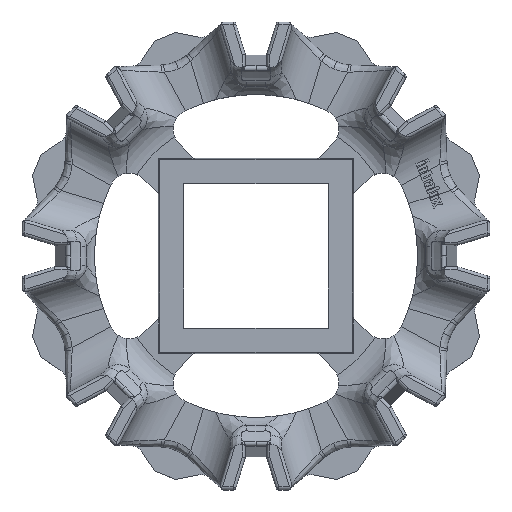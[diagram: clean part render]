
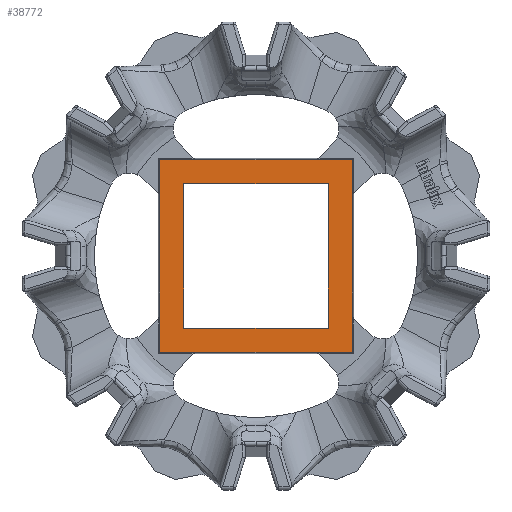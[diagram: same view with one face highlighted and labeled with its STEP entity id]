
A CAD part, top view. The second image highlights one B-rep face of the part: STEP entity #38772.
In plain terms, the highlighted planar face has unit normal (0, 0, 1).
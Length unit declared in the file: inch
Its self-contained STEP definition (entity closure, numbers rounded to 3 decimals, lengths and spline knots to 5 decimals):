
#13116=DIRECTION('',(0.,-1.,0.));
#13117=VECTOR('',#13116,1.99917);
#13118=CARTESIAN_POINT('',(-0.99958,0.99958,0.74));
#13119=LINE('',#13118,#13117);
#13120=DIRECTION('',(-1.,0.,0.));
#13121=VECTOR('',#13120,1.99917);
#13122=CARTESIAN_POINT('',(0.99958,0.99958,0.74));
#13123=LINE('',#13122,#13121);
#13124=DIRECTION('',(0.,1.,0.));
#13125=VECTOR('',#13124,1.99917);
#13126=CARTESIAN_POINT('',(0.99958,-0.99958,0.74));
#13127=LINE('',#13126,#13125);
#13128=DIRECTION('',(1.,0.,0.));
#13129=VECTOR('',#13128,1.99917);
#13130=CARTESIAN_POINT('',(-0.99958,-0.99958,0.74));
#13131=LINE('',#13130,#13129);
#13132=DIRECTION('',(0.,-1.,0.));
#13133=VECTOR('',#13132,1.5);
#13134=CARTESIAN_POINT('',(-0.75,0.75,0.74));
#13135=LINE('',#13134,#13133);
#13136=DIRECTION('',(1.,0.,0.));
#13137=VECTOR('',#13136,1.5);
#13138=CARTESIAN_POINT('',(-0.75,-0.75,0.74));
#13139=LINE('',#13138,#13137);
#13140=DIRECTION('',(0.,1.,0.));
#13141=VECTOR('',#13140,1.5);
#13142=CARTESIAN_POINT('',(0.75,-0.75,0.74));
#13143=LINE('',#13142,#13141);
#13144=DIRECTION('',(-1.,0.,0.));
#13145=VECTOR('',#13144,1.5);
#13146=CARTESIAN_POINT('',(0.75,0.75,0.74));
#13147=LINE('',#13146,#13145);
#15112=CARTESIAN_POINT('',(-0.99958,0.99958,0.74));
#15113=CARTESIAN_POINT('',(-0.99958,-0.99958,0.74));
#15114=VERTEX_POINT('',#15112);
#15115=VERTEX_POINT('',#15113);
#15116=CARTESIAN_POINT('',(0.99958,-0.99958,0.74));
#15117=VERTEX_POINT('',#15116);
#15118=CARTESIAN_POINT('',(0.99958,0.99958,0.74));
#15119=VERTEX_POINT('',#15118);
#16397=CARTESIAN_POINT('',(-0.75,0.75,0.74));
#16398=CARTESIAN_POINT('',(-0.75,-0.75,0.74));
#16399=VERTEX_POINT('',#16397);
#16400=VERTEX_POINT('',#16398);
#16401=CARTESIAN_POINT('',(0.75,-0.75,0.74));
#16402=VERTEX_POINT('',#16401);
#16403=CARTESIAN_POINT('',(0.75,0.75,0.74));
#16404=VERTEX_POINT('',#16403);
#38751=CARTESIAN_POINT('',(0.,0.,0.74));
#38752=DIRECTION('',(0.,0.,1.));
#38753=DIRECTION('',(1.,0.,0.));
#38754=AXIS2_PLACEMENT_3D('',#38751,#38752,#38753);
#38755=PLANE('',#38754);
#38756=ORIENTED_EDGE('',*,*,#18321,.F.);
#38757=ORIENTED_EDGE('',*,*,#17331,.F.);
#38758=ORIENTED_EDGE('',*,*,#18715,.F.);
#38759=ORIENTED_EDGE('',*,*,#25680,.F.);
#38760=EDGE_LOOP('',(#38756,#38757,#38758,#38759));
#38761=FACE_OUTER_BOUND('',#38760,.F.);
#38763=ORIENTED_EDGE('',*,*,#38762,.T.);
#38765=ORIENTED_EDGE('',*,*,#38764,.T.);
#38767=ORIENTED_EDGE('',*,*,#38766,.T.);
#38769=ORIENTED_EDGE('',*,*,#38768,.T.);
#38770=EDGE_LOOP('',(#38763,#38765,#38767,#38769));
#38771=FACE_BOUND('',#38770,.F.);
#38772=ADVANCED_FACE('',(#38761,#38771),#38755,.T.);
#17331=EDGE_CURVE('',#15119,#15114,#13123,.T.);
#18321=EDGE_CURVE('',#15114,#15115,#13119,.T.);
#18715=EDGE_CURVE('',#15117,#15119,#13127,.T.);
#25680=EDGE_CURVE('',#15115,#15117,#13131,.T.);
#38762=EDGE_CURVE('',#16399,#16400,#13135,.T.);
#38764=EDGE_CURVE('',#16400,#16402,#13139,.T.);
#38766=EDGE_CURVE('',#16402,#16404,#13143,.T.);
#38768=EDGE_CURVE('',#16404,#16399,#13147,.T.);
